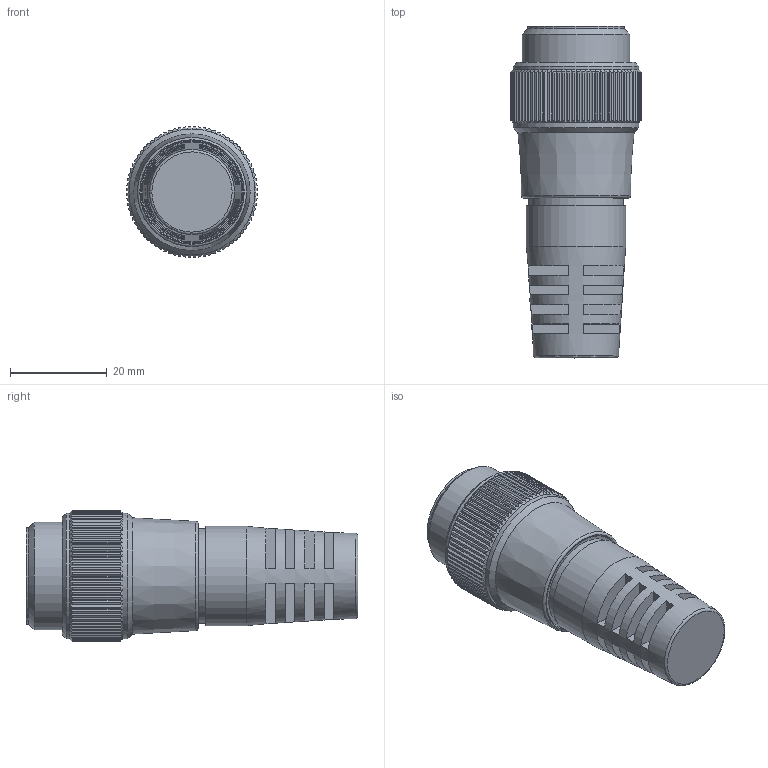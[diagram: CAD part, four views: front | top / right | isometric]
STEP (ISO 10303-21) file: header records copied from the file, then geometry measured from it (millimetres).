
FILE_DESCRIPTION (( 'STEP AP203' ), '1' );
FILE_NAME ('RSM-16AWG.step', '2020-03-18T19:23:57', ( '' ), ( '' ), 'SwSTEP 2.0', 'SolidWorks 2017', '' );
FILE_SCHEMA (( 'CONFIG_CONTROL_DESIGN' ));
Length unit declared in the file: millimetre
Products named in the file (1): RSM-16AWG
Bounding box: 26.99 x 68.5 x 26.99 mm (x, y, z)
Volume: 23069.4 mm3; surface area: 9173.7 mm2
Topology: 1 solids, 1 shells, 343 faces, 941 edges, 624 vertices
Faces by surface type: plane 237, cylinder 92, cone 7, torus 6, bspline 1
Full cylindrical faces by diameter (mm): 18 x1, 18.5 x1, 19.5 x1, 19.9 x1, 20.5 x1, 22.225 x1, 26 x2
Entity records: 10565 total; most frequent: CARTESIAN_POINT 2689, ORIENTED_EDGE 1834, DIRECTION 1471, EDGE_CURVE 917, VERTEX_POINT 619, AXIS2_PLACEMENT_3D 570, EDGE_LOOP 386, FACE_OUTER_BOUND 355
